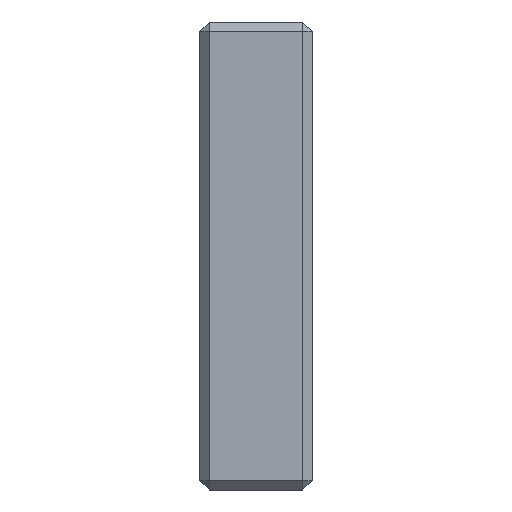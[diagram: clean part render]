
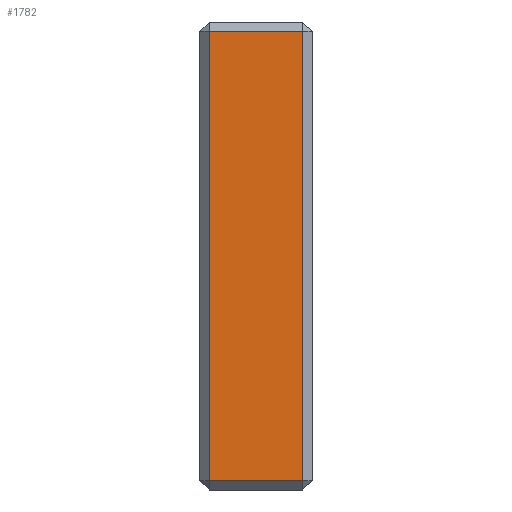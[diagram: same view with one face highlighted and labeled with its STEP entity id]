
A CAD part, left-side view. The second image highlights one B-rep face of the part: STEP entity #1782.
In plain terms, the highlighted planar face has unit normal (-1, 0, 0).
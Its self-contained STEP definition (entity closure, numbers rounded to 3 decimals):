
#59 = CARTESIAN_POINT ( 'NONE',  ( -150., 12., 25. ) ) ;
#106 = VERTEX_POINT ( 'NONE', #1303 ) ;
#125 = CARTESIAN_POINT ( 'NONE',  ( -150., 1., 24. ) ) ;
#216 = EDGE_CURVE ( 'NONE', #1999, #1307, #587, .T. ) ;
#296 = ORIENTED_EDGE ( 'NONE', *, *, #2162, .T. ) ;
#350 = CARTESIAN_POINT ( 'NONE',  ( -150., 12., 24. ) ) ;
#406 = PLANE ( 'NONE',  #1103 ) ;
#426 = DIRECTION ( 'NONE',  ( 0., -1., 0. ) ) ;
#455 = VECTOR ( 'NONE', #2065, 1000. ) ;
#467 = CARTESIAN_POINT ( 'NONE',  ( -150., 11., 24. ) ) ;
#587 = LINE ( 'NONE', #1505, #641 ) ;
#641 = VECTOR ( 'NONE', #1842, 1000. ) ;
#720 = LINE ( 'NONE', #350, #455 ) ;
#811 = FACE_OUTER_BOUND ( 'NONE', #2015, .T. ) ;
#911 = DIRECTION ( 'NONE',  ( 0., 0., -1. ) ) ;
#954 = EDGE_CURVE ( 'NONE', #1980, #1999, #720, .T. ) ;
#1103 = AXIS2_PLACEMENT_3D ( 'NONE', #59, #1952, #911 ) ;
#1132 = ORIENTED_EDGE ( 'NONE', *, *, #954, .T. ) ;
#1233 = EDGE_CURVE ( 'NONE', #1307, #106, #1518, .T. ) ;
#1303 = CARTESIAN_POINT ( 'NONE',  ( -150., 1., -24. ) ) ;
#1307 = VERTEX_POINT ( 'NONE', #1645 ) ;
#1372 = DIRECTION ( 'NONE',  ( 0., 0., 1. ) ) ;
#1436 = VECTOR ( 'NONE', #1372, 1000. ) ;
#1505 = CARTESIAN_POINT ( 'NONE',  ( -150., 11., 25. ) ) ;
#1518 = LINE ( 'NONE', #1627, #1572 ) ;
#1572 = VECTOR ( 'NONE', #426, 1000. ) ;
#1627 = CARTESIAN_POINT ( 'NONE',  ( -150., 12., -24. ) ) ;
#1645 = CARTESIAN_POINT ( 'NONE',  ( -150., 11., -24. ) ) ;
#1663 = ORIENTED_EDGE ( 'NONE', *, *, #1233, .T. ) ;
#1782 = ADVANCED_FACE ( 'NONE', ( #811 ), #406, .F. ) ;
#1842 = DIRECTION ( 'NONE',  ( 0., 0., -1. ) ) ;
#1877 = CARTESIAN_POINT ( 'NONE',  ( -150., 1., 25. ) ) ;
#1886 = LINE ( 'NONE', #1877, #1436 ) ;
#1952 = DIRECTION ( 'NONE',  ( 1., 0., 0. ) ) ;
#1980 = VERTEX_POINT ( 'NONE', #125 ) ;
#1999 = VERTEX_POINT ( 'NONE', #467 ) ;
#2015 = EDGE_LOOP ( 'NONE', ( #2122, #1663, #296, #1132 ) ) ;
#2065 = DIRECTION ( 'NONE',  ( 0., 1., 0. ) ) ;
#2122 = ORIENTED_EDGE ( 'NONE', *, *, #216, .T. ) ;
#2162 = EDGE_CURVE ( 'NONE', #106, #1980, #1886, .T. ) ;
